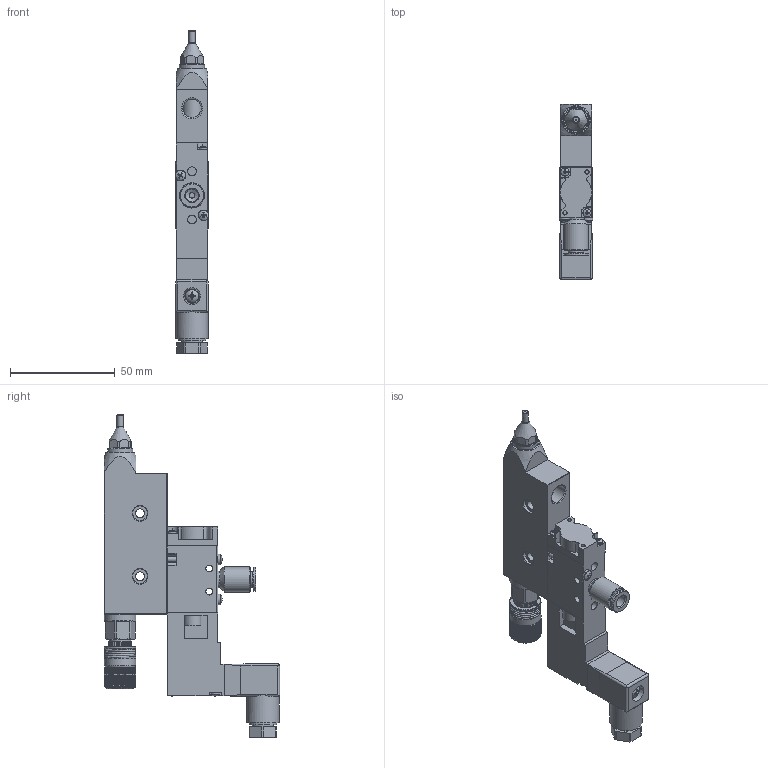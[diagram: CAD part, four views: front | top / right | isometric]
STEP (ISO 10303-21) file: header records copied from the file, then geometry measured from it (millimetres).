
FILE_DESCRIPTION (( 'STEP AP214' ), '1' );
FILE_NAME ('DA-400EV-KL.STEP', '2024-10-11T09:51:08', ( '' ), ( '' ), 'SwSTEP 2.0', 'SolidWorks 2024', '' );
FILE_SCHEMA (( 'AUTOMOTIVE_DESIGN' ));
Length unit declared in the file: millimetre
Products named in the file (1): DA-400EV-KL
Bounding box: 16 x 83.5 x 153.75 mm (x, y, z)
Volume: 71415.7 mm3; surface area: 28149.6 mm2
Topology: 2 solids, 4 shells, 1045 faces, 2785 edges, 1787 vertices
Faces by surface type: plane 606, cylinder 304, cone 83, torus 34, sphere 11, bspline 7
Full cylindrical faces by diameter (mm): 0.5 x1, 1 x2, 1.5 x2, 1.6 x1, 2 x3, 2.5 x11, 2.7 x5, 3 x7, 3.2 x3, 3.3 x2, 3.5 x4, 4 x4, 4.022 x1, 4.2 x6, 4.496 x1, 4.5 x1, 5 x3, 5.5 x1, 6.15 x1, 7 x6, 7.3 x1, 7.5 x1, 8 x1, 8.8 x1, 8.85 x1, 10 x1, 10.5 x1, 11.5 x1, 12 x2, 13.157 x1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
Entity records: 43152 total; most frequent: CARTESIAN_POINT 19888, ORIENTED_EDGE 5104, DIRECTION 4058, EDGE_CURVE 2552, VERTEX_POINT 1706, AXIS2_PLACEMENT_3D 1443, EDGE_LOOP 1286, VECTOR 1172
